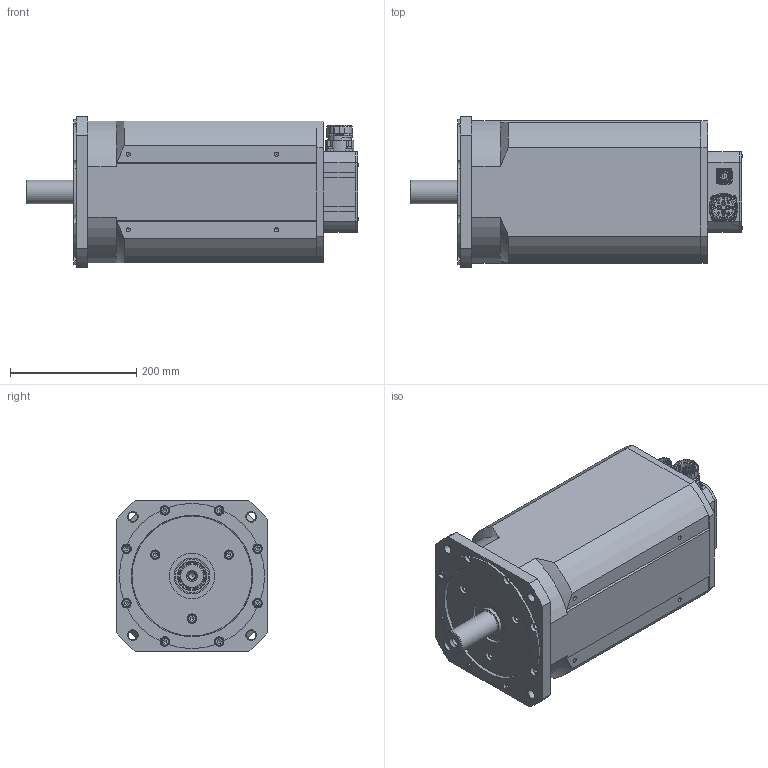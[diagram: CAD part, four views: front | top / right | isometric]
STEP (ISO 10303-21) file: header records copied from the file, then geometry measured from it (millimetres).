
FILE_DESCRIPTION(/* description */ (''),/* implementation_level */ '2;1');
FILE_NAME(/* name */ 'C:\PDF_output\T8000 00 B Z_0680_8P_12P.stp',/* time_stamp */ '2024-04-19T11:58:44+02:00',/* author */ ('oslejsek'),/* organization */ (''),/* preprocessor_version */ 'ST-DEVELOPER v18.1',/* originating_system */ 'Autodesk Inventor 2021',/* authorisation */ '');
FILE_SCHEMA (('AUTOMOTIVE_DESIGN { 1 0 10303 214 3 1 1 }'));
Products named in the file (5): T8000 00 B Z_0680_8P_12P; T8000 00 B Z_rear_0680; T8000 00 B Z_front_38_80; 127344; 115772
Assembly tree (4 placements, depth 2):
  T8000 00 B Z_0680_8P_12P
    T8000 00 B Z_rear_0680
    T8000 00 B Z_front_38_80
    127344
    115772
Bounding box: 526.29 x 240 x 240 mm (x, y, z)
Volume: 18936012.9 mm3; surface area: 689046.4 mm2
Topology: 5 solids, 62 shells, 2682 faces, 6873 edges, 4450 vertices
Faces by surface type: plane 964, cylinder 817, cone 307, bspline 297, torus 258, sphere 39
Full cylindrical faces by diameter (mm): 1 x12, 1.18 x12, 2 x4, 2.013 x4, 2.208 x4, 2.4 x4, 2.459 x6, 2.5 x4, 2.7 x4, 3 x3, 3.2 x3, 3.242 x11, 3.545 x4, 3.6 x5, 3.95 x4, 4 x15, 4.134 x2, 4.3 x8, 4.917 x9, 5 x4, 5.7 x3, 6 x9, 6.4 x1, 6.5 x8, 6.647 x16, 7 x4, 7.5 x4, 8 x15, 8.4 x11, 8.5 x4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
Entity records: 97798 total; most frequent: CARTESIAN_POINT 30451, ORIENTED_EDGE 13562, DIRECTION 13505, EDGE_CURVE 6781, AXIS2_PLACEMENT_3D 5459, VERTEX_POINT 4468, EDGE_LOOP 3071, CIRCLE 2828
